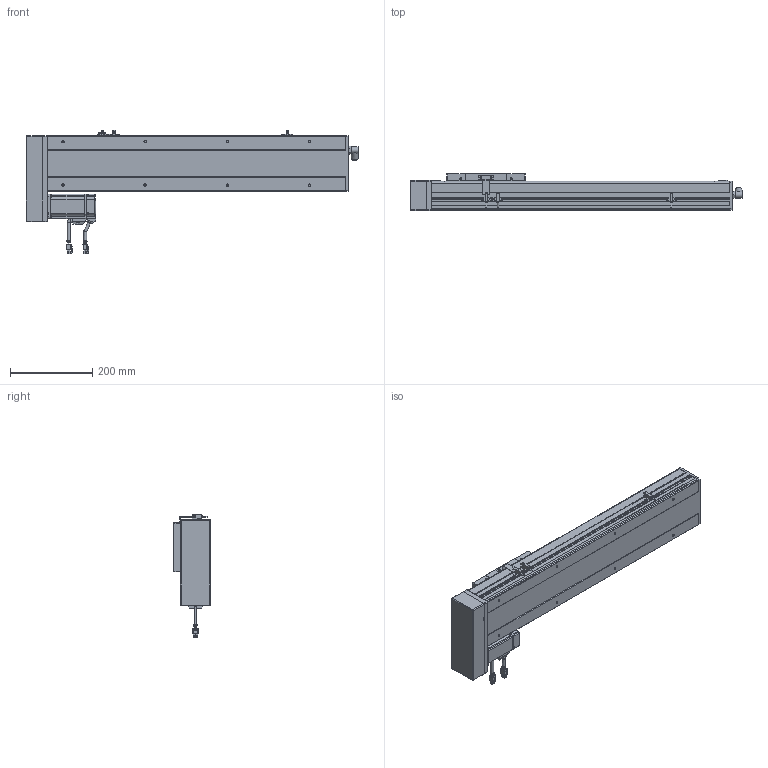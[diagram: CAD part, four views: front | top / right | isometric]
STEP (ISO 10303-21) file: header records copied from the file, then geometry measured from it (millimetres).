
FILE_DESCRIPTION(/* description */ ('STEP AP214'),/* implementation_level */ '2;1');
FILE_NAME(/* name */ 'PSC140-L05-S450-BR-P40-C1-N(0)',/* time_stamp */ '2022-06-13T03:34:56+02:00',/* author */ ('License CC BY-ND 4.0'),/* organization */ ('CADENAS'),/* preprocessor_version */ 'ST-DEVELOPER v18.102',/* originating_system */ 'PARTsolutions',/* authorisation */ ' ');
FILE_SCHEMA (('AUTOMOTIVE_DESIGN {1 0 10303 214 3 1 1}'));
Length unit declared in the file: millimetre
Products named in the file (11): PSC140-L05-S450-BR-P40-C1-N(0); P40-s2; P40-c2; P40-s1; P40-c1; P40-p1; PSC140-BR-body2; PSC140-sensor; PSC140-BR-SLIDER; PSC140-S450-BR-P40-C1_BODY1; PSC140-L05-S450-BR-P40-C1-N(0)_dummy
Assembly tree (12 placements, depth 2):
  PSC140-L05-S450-BR-P40-C1-N(0)
    P40-s2
    P40-c2
    P40-s1
    P40-c1
    P40-p1
    PSC140-BR-body2
    PSC140-sensor  x3
    PSC140-BR-SLIDER
    PSC140-S450-BR-P40-C1_BODY1
    PSC140-L05-S450-BR-P40-C1-N(0)_dummy
Bounding box: 808 x 91 x 300.88 mm (x, y, z)
Volume: 8504572.4 mm3; surface area: 537192.4 mm2
Topology: 11 solids, 11 shells, 1219 faces, 3159 edges, 2091 vertices
Faces by surface type: plane 854, cylinder 310, cone 36, torus 19
Full cylindrical faces by diameter (mm): 1 x8, 2.6 x10, 2.8 x3, 3.3 x8, 4.5 x12, 4.6 x3, 4.917 x12, 5 x4, 5.5 x8, 6 x10, 7 x10, 9 x2, 10 x1, 11 x1, 12 x1, 13.74 x1, 14 x1, 16.4 x2, 16.5 x1, 36 x1, 50 x2
Entity records: 33846 total; most frequent: CARTESIAN_POINT 5917, DIRECTION 5683, ORIENTED_EDGE 5510, EDGE_CURVE 2755, LINE 2097, VECTOR 2097, VERTEX_POINT 1912, AXIS2_PLACEMENT_3D 1793
